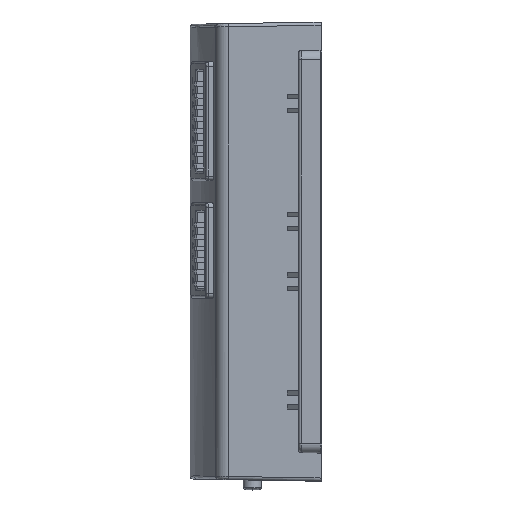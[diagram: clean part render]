
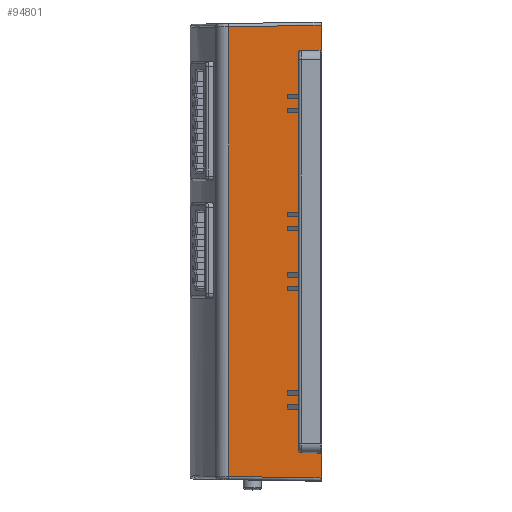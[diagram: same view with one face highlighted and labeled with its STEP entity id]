
A CAD part, left-side view. The second image highlights one B-rep face of the part: STEP entity #94801.
In plain terms, the highlighted planar face has unit normal (-0.999, 0.035, 0).
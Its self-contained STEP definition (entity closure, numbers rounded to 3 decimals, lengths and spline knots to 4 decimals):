
#2269 = CARTESIAN_POINT ( 'NONE',  ( -1.7566, -0.189, -2.0495 ) ) ;
#2271 = DIRECTION ( 'NONE',  ( 0., 0., 1. ) ) ;
#2293 = CARTESIAN_POINT ( 'NONE',  ( -1.7291, 0.5976, -1.9108 ) ) ;
#2295 = DIRECTION ( 'NONE',  ( -0.035, -0.999, -0.017 ) ) ;
#2312 = CARTESIAN_POINT ( 'NONE',  ( -1.75, 0., -2.0495 ) ) ;
#2314 = DIRECTION ( 'NONE',  ( 0., 0., 1. ) ) ;
#2317 = CARTESIAN_POINT ( 'NONE',  ( -1.7566, -0.189, -1.6529 ) ) ;
#2318 = DIRECTION ( 'NONE',  ( 0.035, 0.999, 0.017 ) ) ;
#2369 = CARTESIAN_POINT ( 'NONE',  ( -1.75, 0., 1.6496 ) ) ;
#2371 = DIRECTION ( 'NONE',  ( -0.035, -0.999, 0.017 ) ) ;
#2395 = CARTESIAN_POINT ( 'NONE',  ( -1.7566, -0.189, -2.0495 ) ) ;
#6170 = DIRECTION ( 'NONE',  ( 0., 0., 1. ) ) ;
#6190 = CARTESIAN_POINT ( 'NONE',  ( -1.7566, -0.189, 1.9246 ) ) ;
#6191 = DIRECTION ( 'NONE',  ( 0.035, 0.999, -0.017 ) ) ;
#16708 = CARTESIAN_POINT ( 'NONE',  ( -1.7566, -0.189, -1.6529 ) ) ;
#16712 = CARTESIAN_POINT ( 'NONE',  ( -1.7566, -0.189, 1.6529 ) ) ;
#16716 = CARTESIAN_POINT ( 'NONE',  ( -1.75, 0., 1.6496 ) ) ;
#16727 = CARTESIAN_POINT ( 'NONE',  ( -1.7291, 0.5976, 1.9108 ) ) ;
#16732 = CARTESIAN_POINT ( 'NONE',  ( -1.7566, -0.189, 1.9246 ) ) ;
#16737 = CARTESIAN_POINT ( 'NONE',  ( -1.7566, -0.189, -1.9246 ) ) ;
#16784 = CARTESIAN_POINT ( 'NONE',  ( -1.75, 0., -1.6496 ) ) ;
#16888 = CARTESIAN_POINT ( 'NONE',  ( -1.7291, 0.5976, -1.9108 ) ) ;
#30189 = AXIS2_PLACEMENT_3D ( 'NONE', #68463, #68500, #68501 ) ;
#43153 = EDGE_CURVE ( 'NONE', #49867, #49706, #98193, .T. ) ;
#48262 = EDGE_CURVE ( 'NONE', #49716, #49687, #105367, .T. ) ;
#48266 = EDGE_CURVE ( 'NONE', #49867, #49716, #105363, .T. ) ;
#48270 = EDGE_CURVE ( 'NONE', #49763, #49695, #105396, .T. ) ;
#48271 = EDGE_CURVE ( 'NONE', #49687, #49763, #105399, .T. ) ;
#48281 = EDGE_CURVE ( 'NONE', #49695, #49691, #105390, .T. ) ;
#48288 = EDGE_CURVE ( 'NONE', #49691, #49711, #105459, .T. ) ;
#48293 = EDGE_CURVE ( 'NONE', #49711, #49706, #105471, .T. ) ;
#49687 = VERTEX_POINT ( 'NONE', #16708 ) ;
#49691 = VERTEX_POINT ( 'NONE', #16712 ) ;
#49695 = VERTEX_POINT ( 'NONE', #16716 ) ;
#49706 = VERTEX_POINT ( 'NONE', #16727 ) ;
#49711 = VERTEX_POINT ( 'NONE', #16732 ) ;
#49716 = VERTEX_POINT ( 'NONE', #16737 ) ;
#49763 = VERTEX_POINT ( 'NONE', #16784 ) ;
#49867 = VERTEX_POINT ( 'NONE', #16888 ) ;
#59146 = ORIENTED_EDGE ( 'NONE', *, *, #48288, .T. ) ;
#59147 = ORIENTED_EDGE ( 'NONE', *, *, #48293, .T. ) ;
#59148 = ORIENTED_EDGE ( 'NONE', *, *, #43153, .F. ) ;
#59149 = ORIENTED_EDGE ( 'NONE', *, *, #48266, .T. ) ;
#59150 = ORIENTED_EDGE ( 'NONE', *, *, #48262, .T. ) ;
#59151 = ORIENTED_EDGE ( 'NONE', *, *, #48271, .T. ) ;
#59152 = ORIENTED_EDGE ( 'NONE', *, *, #48270, .T. ) ;
#59153 = ORIENTED_EDGE ( 'NONE', *, *, #48281, .T. ) ;
#63637 = EDGE_LOOP ( 'NONE', ( #59146, #59147, #59148, #59149, #59150, #59151, #59152, #59153 ) ) ;
#68462 = PLANE ( 'NONE',  #30189 ) ;
#68463 = CARTESIAN_POINT ( 'NONE',  ( -1.75, 0., -2.0495 ) ) ;
#68500 = DIRECTION ( 'NONE',  ( -0.999, 0.035, 0. ) ) ;
#68501 = DIRECTION ( 'NONE',  ( -0.035, -0.999, 0. ) ) ;
#69056 = FACE_OUTER_BOUND ( 'NONE', #63637, .T. ) ;
#94801 = ADVANCED_FACE ( 'NONE', ( #69056 ), #68462, .T. ) ;
#98193 = LINE ( 'NONE', #101566, #98196 ) ;
#98196 = VECTOR ( 'NONE', #101570, 39.3701 ) ;
#101566 = CARTESIAN_POINT ( 'NONE',  ( -1.7291, 0.5976, 1.9562 ) ) ;
#101570 = DIRECTION ( 'NONE',  ( 0., 0., 1. ) ) ;
#105363 = LINE ( 'NONE', #2293, #105382 ) ;
#105367 = LINE ( 'NONE', #2269, #105369 ) ;
#105369 = VECTOR ( 'NONE', #2271, 39.3701 ) ;
#105378 = VECTOR ( 'NONE', #2371, 39.3701 ) ;
#105382 = VECTOR ( 'NONE', #2295, 39.3701 ) ;
#105390 = LINE ( 'NONE', #2369, #105378 ) ;
#105396 = LINE ( 'NONE', #2312, #105397 ) ;
#105397 = VECTOR ( 'NONE', #2314, 39.3701 ) ;
#105399 = LINE ( 'NONE', #2317, #105400 ) ;
#105400 = VECTOR ( 'NONE', #2318, 39.3701 ) ;
#105434 = VECTOR ( 'NONE', #6170, 39.3701 ) ;
#105459 = LINE ( 'NONE', #2395, #105434 ) ;
#105471 = LINE ( 'NONE', #6190, #105473 ) ;
#105473 = VECTOR ( 'NONE', #6191, 39.3701 ) ;
